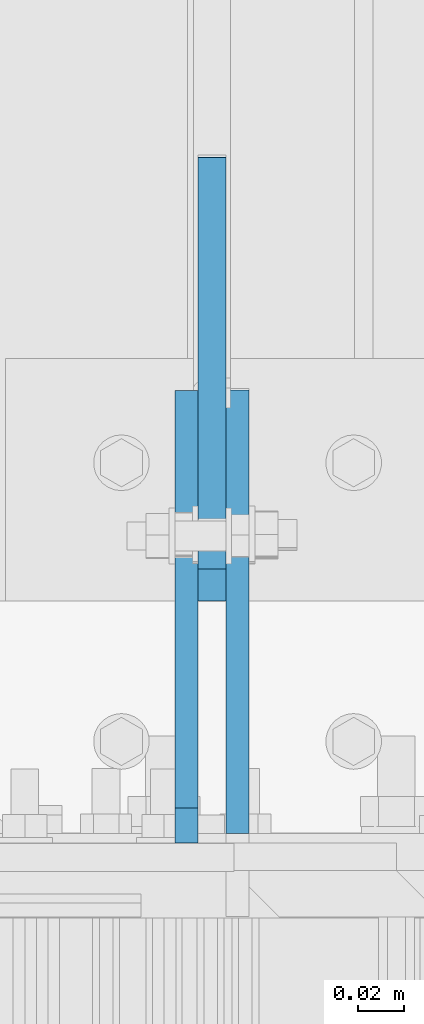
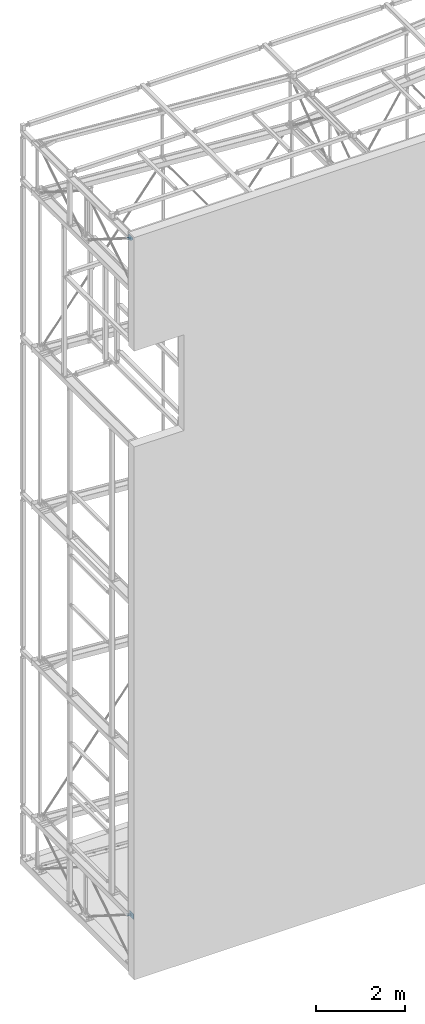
# One storey, part 97 of 271: 4 plates, 4 elements without a shape of their own.
"""IFC2X3 building model written with IfcOpenShell, lengths in millimetres."""

from ifc_helpers import new_model, si_unit, frame, origin_with_axes, place, context, subcontext, project, spatial, polyline, outline, extrude, material, type_object, element, aggregate, save


model = new_model("IFC2X3")

# Units and contexts
model_context = context("Model", 3, precision=1e-05, world=origin_with_axes())
body_context = subcontext(model_context, "Body", "Model", "MODEL_VIEW")
ifc_project = project(units=[si_unit("LENGTHUNIT", "METRE", prefix="MILLI"), si_unit("AREAUNIT", "SQUARE_METRE"), si_unit("VOLUMEUNIT", "CUBIC_METRE"), si_unit("MASSUNIT", "GRAM", prefix="KILO"), si_unit("TIMEUNIT", "SECOND"), si_unit("PLANEANGLEUNIT", "RADIAN"), si_unit("SOLIDANGLEUNIT", "STERADIAN"), si_unit("THERMODYNAMICTEMPERATUREUNIT", "DEGREE_CELSIUS"), si_unit("LUMINOUSINTENSITYUNIT", "LUMEN")], contexts=[model_context])

# Site, building, storey
site_placement = place(None, origin_with_axes())
site = spatial("IfcSite", under=ifc_project, at=site_placement, Name="Undefined", CompositionType="ELEMENT")
building_placement = place(site_placement, origin_with_axes())
building = spatial("IfcBuilding", under=site, at=building_placement, Name="Undefined", CompositionType="ELEMENT")
storey_placement = place(building_placement, origin_with_axes())
storey = spatial("IfcBuildingStorey", under=building, at=storey_placement, Name="Undefined", CompositionType="ELEMENT", Elevation=0.0)

# Assembly, plate
assembly_1_placement = place(storey_placement, origin_with_axes())
assembly_1 = element("IfcElementAssembly", 1, at=assembly_1_placement, inside=storey, AssemblyPlace="NOTDEFINED", PredefinedType="RIGID_FRAME")
ifc_material = material(Name="STEEL/S355JR")
plate_type_1 = type_object("IfcPlateType", Name="BL12*56", PredefinedType="NOTDEFINED")
plate_1_placement = place(assembly_1_placement, frame((98.999999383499, 169.943266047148, 19943.7024984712), z_axis=(1.0, 0.0, 0.0), x_axis=(0.0, -0.975225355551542, -0.221213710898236)))
plate_1 = element("IfcPlate", 2, at=plate_1_placement, type_object=plate_type_1, material=ifc_material, Name="BLACHA", ObjectType="BL12*56", context=body_context, shape_type="SweptSolid", body=[
    extrude(outline(polyline([(0.0, 0.0), (21.2132034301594, 1.09139364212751e-11), (39.5979804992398, 18.3847751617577), (39.5979804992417, 39.5979804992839), (-91.2167739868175, 170.412734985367), (-105.358909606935, 156.270599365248), (-34.6482315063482, 85.5599212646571), (-45.9619407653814, 74.2462158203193), (-116.672622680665, 144.95689392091), (-130.814758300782, 130.814758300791), (0.0, 0.0)])), frame((0.0, 0.0, -6.0), z_axis=(0.0, 0.0, 1.0), x_axis=(1.0, 0.0, 0.0)), (0.0, 0.0, 1.0), 12.0),
])
aggregate(assembly_1, [plate_1])

assembly_2_placement = place(storey_placement, origin_with_axes())
assembly_2 = element("IfcElementAssembly", 3, at=assembly_2_placement, inside=storey, AssemblyPlace="NOTDEFINED", PredefinedType="RIGID_FRAME")
plate_2_placement = place(assembly_2_placement, frame((99.0000000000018, 140.363590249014, 1255.71587388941), z_axis=(-1.0, 0.0, 1.38777878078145e-17), x_axis=(0.0, -0.218952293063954, 0.975735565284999)))
plate_2 = element("IfcPlate", 4, at=plate_2_placement, type_object=plate_type_1, material=ifc_material, Name="BLACHA", ObjectType="BL12*56", context=body_context, shape_type="SweptSolid", body=[
    extrude(outline(polyline([(0.0, 0.0), (21.2132034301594, 1.09139364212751e-11), (39.5979804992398, 18.3847751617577), (39.5979804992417, 39.5979804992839), (-91.2167739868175, 170.412734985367), (-105.358909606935, 156.270599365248), (-34.6482315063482, 85.5599212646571), (-45.9619407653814, 74.2462158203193), (-116.672622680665, 144.95689392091), (-130.814758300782, 130.814758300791), (0.0, 0.0)])), frame((0.0, 0.0, -6.0), z_axis=(0.0, 0.0, 1.0), x_axis=(1.0, 0.0, 0.0)), (0.0, 0.0, 1.0), 12.0),
])
aggregate(assembly_2, [plate_2])

assembly_3_placement = place(storey_placement, origin_with_axes())
assembly_3 = element("IfcElementAssembly", 5, at=assembly_3_placement, inside=storey, AssemblyPlace="NOTDEFINED", PredefinedType="RIGID_FRAME")
plate_type_2 = type_object("IfcPlateType", Name="BL10*146", PredefinedType="NOTDEFINED")
plate_3_placement = place(assembly_3_placement, frame((87.9999996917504, 226.035545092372, 20001.6999998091), z_axis=(1.0, 0.0, 0.0), x_axis=(0.0, -1.0, 0.0)))
plate_3 = element("IfcPlate", 6, at=plate_3_placement, type_object=plate_type_2, material=ifc_material, Name="BLACHA", ObjectType="BL10*146", context=body_context, shape_type="SweptSolid", body=[
    extrude(outline(polyline([(0.0, 0.0), (179.710556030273, 0.0), (194.710556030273, 15.0), (194.710556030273, 50.8241729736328), (59.7105560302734, 145.824172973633), (40.5206718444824, 145.824172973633), (0.0, 81.5274047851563), (0.0, 0.0)])), frame((0.0, 0.0, -5.0), z_axis=(0.0, 0.0, 1.0), x_axis=(1.0, 0.0, 0.0)), (0.0, 0.0, 1.0), 10.0),
])
aggregate(assembly_3, [plate_3])

assembly_4_placement = place(storey_placement, origin_with_axes())
assembly_4 = element("IfcElementAssembly", 7, at=assembly_4_placement, inside=storey, AssemblyPlace="NOTDEFINED", PredefinedType="RIGID_FRAME")
plate_4_placement = place(assembly_4_placement, frame((110.000000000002, 35.3249842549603, 1361.04999995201), z_axis=(-1.0, 0.0, 1.38777878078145e-17), x_axis=(0.0, 1.0, 0.0)))
plate_4 = element("IfcPlate", 8, at=plate_4_placement, type_object=plate_type_2, material=ifc_material, Name="BLACHA", ObjectType="BL10*146", context=body_context, shape_type="SweptSolid", body=[
    extrude(outline(polyline([(0.0, 0.0), (191.043273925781, 0.0), (191.043273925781, 81.6867752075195), (150.373657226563, 145.889434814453), (0.0, 145.889434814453), (0.0, 0.0)])), frame((0.0, 0.0, -5.0), z_axis=(0.0, 0.0, 1.0), x_axis=(1.0, 0.0, 0.0)), (0.0, 0.0, 1.0), 10.0),
])
aggregate(assembly_4, [plate_4])

save(model, "model.ifc")
